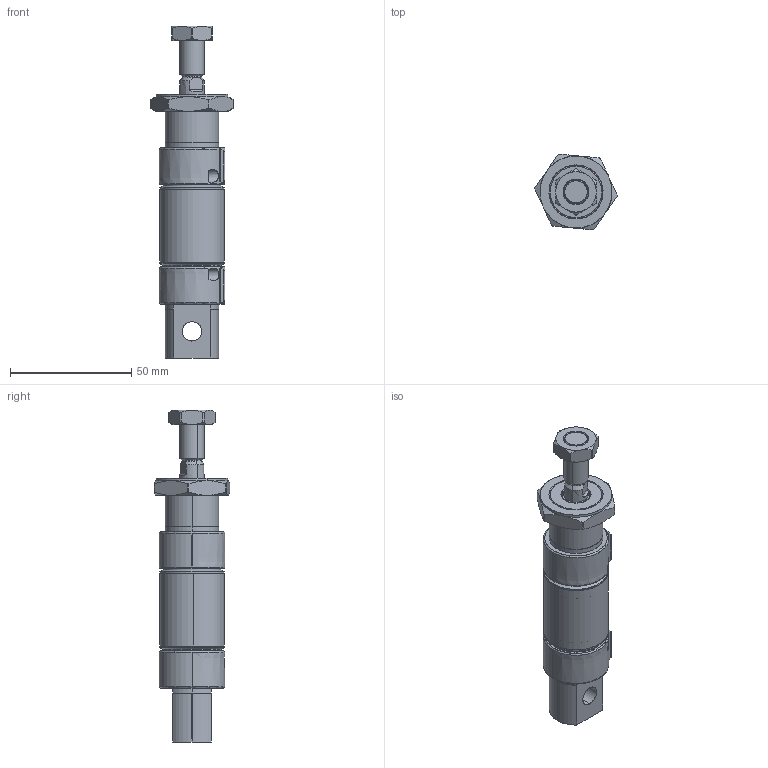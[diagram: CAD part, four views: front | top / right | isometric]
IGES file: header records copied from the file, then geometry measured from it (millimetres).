
Start section: SolidWorks IGES file using analytic representation for surfaces
Global section: file name: D:\ARICA 3D ÇÝZÝMLER\3D IGES\MAC6432S\MAC6432S-25\MAC6432S-25x0-CYLINDER.IGS; native system: SolidWorks 2013; preprocessor: SolidWorks 2013; author: user; date: 150820.101757; units: millimetre
Bounding box: 34.08 x 31.21 x 137 mm (x, y, z)
Surface area: 34298.9 mm2 (no closed solid volume)
Topology: 0 solids, 0 shells, 719 faces, 9339 edges, 9337 vertices
Faces by surface type: revolution 432, bspline 287
